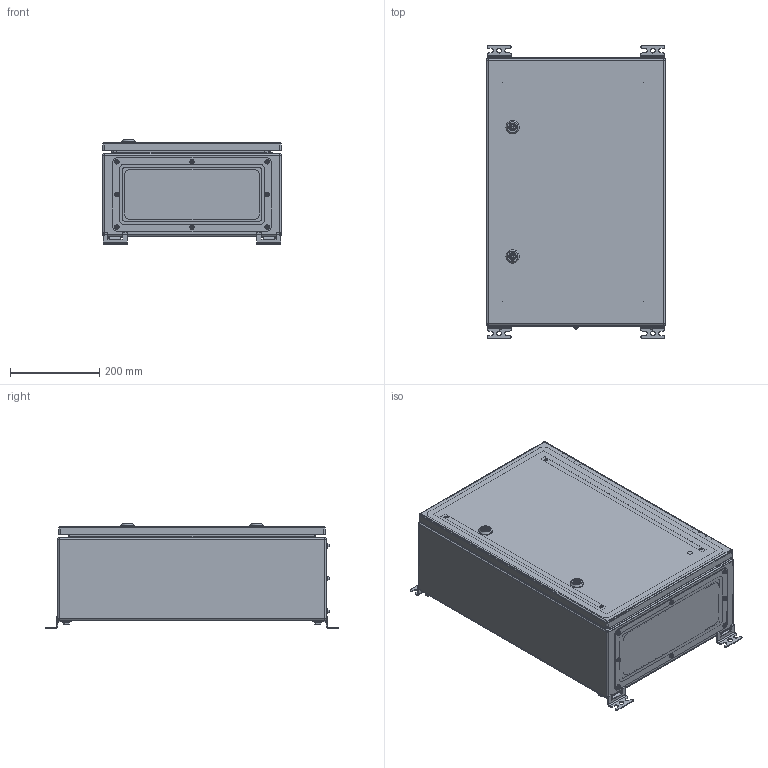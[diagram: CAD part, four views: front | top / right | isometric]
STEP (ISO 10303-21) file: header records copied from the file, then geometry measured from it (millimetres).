
FILE_DESCRIPTION(('STEP AP242'), '1');
FILE_NAME('400 ﾙﾌﾏ-1 (IP-56)', '', ('UNSPECIFIED'), ('UNSPECIFIED'), 'C3D Converter', 'C3D Toolkit', '');
FILE_SCHEMA(('AP242_MANAGED_MODEL_BASED_3D_ENGINEERING_MIM_LF { 1 0 10303 442 1 1 4 }'));
Length unit declared in the file: millimetre
Products named in the file (41): ЩМП-1-Л СБ; 410-Л; 420; 421; 411; 430-Л; 431-Л; 490; 491; 401; 440; 441; 402; 403
Assembly tree (121 placements, depth 4):
  ЩМП-1-Л СБ
    410-Л
      420
        421
        (unnamed)  x6
        (unnamed)
      411
      430-Л
        431-Л
        (unnamed)  x8
    490  x2
      491
      (unnamed)
      (unnamed)
      (unnamed)
      (unnamed)
      (unnamed)
    490  x2
      491
      (unnamed)
      (unnamed)
      (unnamed)
      (unnamed)
      (unnamed)
    401
    (unnamed)  x6
    (unnamed)  x6
    (unnamed)  x6
    (unnamed)  x2
      (unnamed)
      (unnamed)
      (unnamed)
    (unnamed)  x12
    440
      441
      (unnamed)
      (unnamed)  x4
      (unnamed)  x2
    402  x2
    (unnamed)  x4
    (unnamed)  x4
    (unnamed)  x2
      (unnamed)
      (unnamed)
      (unnamed)
      (unnamed)
      (unnamed)
    (unnamed)  x2
    403
    (unnamed)  x8
    (unnamed)  x8
Bounding box: 400 x 656 x 233.1 mm (x, y, z)
Volume: 2253091.5 mm3; surface area: 2675295 mm2
Topology: 133 solids, 133 shells, 2609 faces, 6188 edges, 3928 vertices
Faces by surface type: plane 1475, cylinder 756, cone 224, extrusion 54, sphere 36, torus 32, bspline 32
Full cylindrical faces by diameter (mm): 0.5 x4, 2.6 x8, 3.5 x76, 4.134 x8, 4.2 x4, 4.917 x4, 5 x14, 5.5 x12, 5.8 x2, 6 x24, 6.38 x8, 6.4 x12, 6.647 x10, 7 x6, 7.3 x4, 7.5 x6, 7.74 x8, 8 x12, 8.4 x10, 8.5 x24, 8.7 x8, 9 x8, 10 x16, 10.4 x2, 10.5 x6, 11 x10, 11.4 x1, 11.5 x5, 12 x2, 12.3 x4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
Entity records: 67134 total; most frequent: CARTESIAN_POINT 34906, DIRECTION 5260, ORIENTED_EDGE 4988, EDGE_CURVE 2494, AXIS2_PLACEMENT_3D 1943, VERTEX_POINT 1676, EDGE_LOOP 1480, VECTOR 1374
